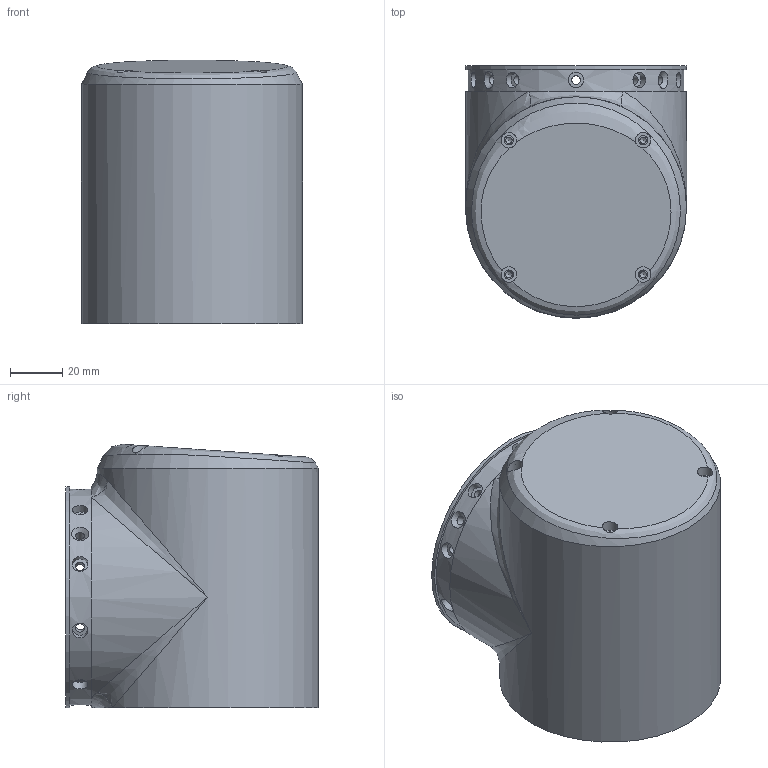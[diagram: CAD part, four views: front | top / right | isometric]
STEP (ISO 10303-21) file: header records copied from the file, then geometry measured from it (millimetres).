
FILE_DESCRIPTION (( 'STEP AP214' ), '1' );
FILE_NAME ('80樑粣.STEP', '2026-05-21T03:41:14', ( 'Windows User' ), ( 'P R C' ), 'SwSTEP 2.0', 'SolidWorks 2021', '' );
FILE_SCHEMA (( 'AUTOMOTIVE_DESIGN' ));
Length unit declared in the file: millimetre
Products named in the file (1): 80樑粣
Bounding box: 85 x 97 x 101.29 mm (x, y, z)
Volume: 351425.3 mm3; surface area: 86076.8 mm2
Topology: 2 solids, 2 shells, 321 faces, 857 edges, 551 vertices
Faces by surface type: cylinder 185, plane 83, cone 24, bspline 23, torus 6
Full cylindrical faces by diameter (mm): 2.5 x16, 3.2 x4, 3.4 x12, 3.5 x4, 6 x17, 18 x1, 40 x1, 71 x1, 78 x1, 80 x1, 80.7 x2, 83 x1, 85 x2
Entity records: 16726 total; most frequent: CARTESIAN_POINT 6089, ORIENTED_EDGE 1422, DIRECTION 1395, EDGE_CURVE 711, AXIS2_PLACEMENT_3D 585, VERTEX_POINT 506, EDGE_LOOP 467, FACE_OUTER_BOUND 384
